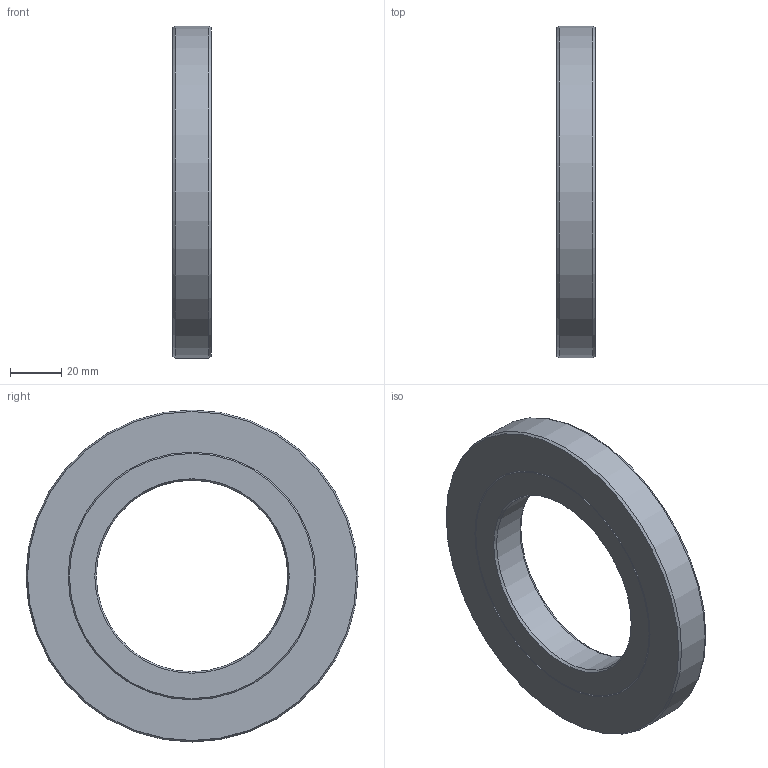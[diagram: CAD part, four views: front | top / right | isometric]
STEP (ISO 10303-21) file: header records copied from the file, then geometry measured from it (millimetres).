
FILE_DESCRIPTION(/* description */ (''),/* implementation_level */ '2;1');
FILE_NAME(/* name */ '301659 S75x130x15.stp',/* time_stamp */ '2016-12-16T13:57:43+01:00',/* author */ (''),/* organization */ (''),/* preprocessor_version */ 'ST-DEVELOPER v15',/* originating_system */ 'SIEMENS PLM Software NX 8.5',/* authorisation */ '');
FILE_SCHEMA (('CONFIG_CONTROL_DESIGN'));
Length unit declared in the file: millimetre
Products named in the file (1): ATE0000143_01
Bounding box: 15 x 130 x 130 mm (x, y, z)
Volume: 129993 mm3; surface area: 38754 mm2
Topology: 2 solids, 2 shells, 16 faces, 30 edges, 18 vertices
Faces by surface type: cone 10, plane 4, cylinder 2
Full cylindrical faces by diameter (mm): 75 x1, 130 x1
Entity records: 414 total; most frequent: DIRECTION 66, CARTESIAN_POINT 49, AXIS2_PLACEMENT_3D 33, FACE_BOUND 32, EDGE_LOOP 32, ORIENTED_EDGE 32, ADVANCED_FACE 16, VERTEX_POINT 16
